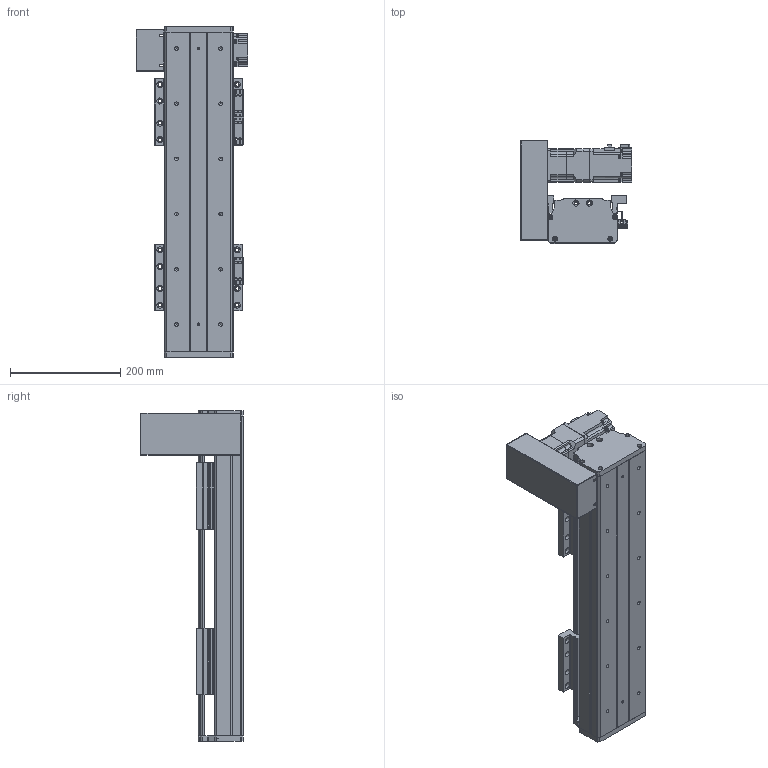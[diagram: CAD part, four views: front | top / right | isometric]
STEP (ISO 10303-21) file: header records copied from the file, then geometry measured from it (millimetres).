
FILE_DESCRIPTION(/* description */ (''),/* implementation_level */ '2;1');
FILE_NAME(/* name */ 'C:\Users\PC\Desktop\3D도면\STEP\DSB125-UL2G-W0300-R.stp',/* time_stamp */ '2018-06-19T00:38:12-07:00',/* author */ ('PC'),/* organization */ (''),/* preprocessor_version */ 'ST-DEVELOPER v16.5',/* originating_system */ 'Autodesk Inventor 2017',/* authorisation */ '');
FILE_SCHEMA (('AUTOMOTIVE_DESIGN { 1 0 10303 214 3 1 1 }'));
Length unit declared in the file: millimetre
Products named in the file (12): DSB125-L-300ST; DSR125-BASE(S-TYPE); DSR125-UP COVER-R01(170203); DSR125-REAR COVER-R01(170203); DSR125-REAR COVER-R01(170203)_1; hg-kr23_; ab0601-p0401200402; 13-BELT COVER; DSR126-SENSOR DOG; SENSOR BRACKET(EE-SX674A); pm-y65_step; DSR125-TABLE(MSA15X)
Assembly tree (16 placements, depth 2):
  DSB125-L-300ST
    DSR125-BASE(S-TYPE)
    DSR125-UP COVER-R01(170203)
    DSR125-REAR COVER-R01(170203)
    DSR125-REAR COVER-R01(170203)_1
    hg-kr23_
    ab0601-p0401200402
    13-BELT COVER
    DSR126-SENSOR DOG
    SENSOR BRACKET(EE-SX674A)  x3
    pm-y65_step  x3
    DSR125-TABLE(MSA15X)  x2
Bounding box: 202.1 x 187 x 600 mm (x, y, z)
Volume: 2855265.7 mm3; surface area: 827258.4 mm2
Topology: 17 solids, 22 shells, 1645 faces, 4461 edges, 2946 vertices
Faces by surface type: plane 908, cylinder 623, cone 102, sphere 8, torus 4
Full cylindrical faces by diameter (mm): 2.459 x20, 3.242 x16, 3.5 x6, 4 x1, 4.134 x16, 4.2 x4, 4.3 x1, 4.5 x50, 4.917 x20, 5 x27, 5.3 x1, 5.5 x4, 5.6 x8, 5.8 x4, 5.9 x8, 6 x4, 6.6 x22, 6.647 x12, 7.5 x32, 8.5 x8, 8.7 x1, 11 x22, 14 x1, 16 x2, 17 x1, 20 x1, 47 x1, 50 x3
Entity records: 35030 total; most frequent: CARTESIAN_POINT 6451, DIRECTION 6060, ORIENTED_EDGE 5446, EDGE_CURVE 2728, AXIS2_PLACEMENT_3D 2218, VERTEX_POINT 1937, EDGE_LOOP 1641, LINE 1624
